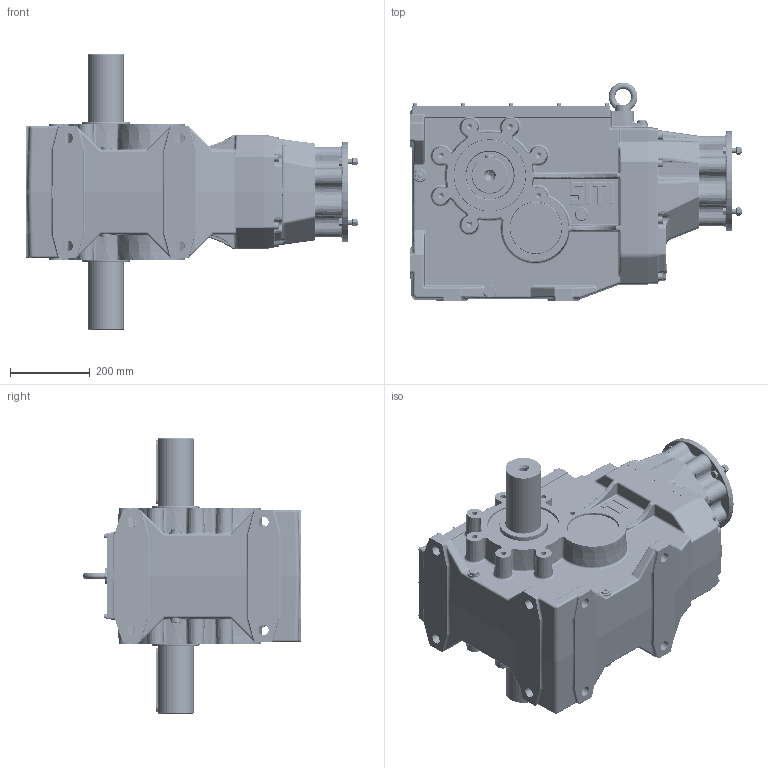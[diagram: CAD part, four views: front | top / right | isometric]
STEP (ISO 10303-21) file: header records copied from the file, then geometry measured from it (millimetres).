
FILE_DESCRIPTION((''),'2;1');
FILE_NAME('O:\Figurini\Figurini BH\3D\160\MBHGC 160 MD GR 100-112 B5.stp','2013-05-21T12:38:44',('d.iannaccio'),(''),'Autodesk Inventor 2012','Autodesk Inventor 2012','');
FILE_SCHEMA(('AUTOMOTIVE_DESIGN { 1 0 10303 214 1 1 1 1 }'));
Length unit declared in the file: millimetre
Products named in the file (1): MBHGC_160 MD GR 100-112 B5
Bounding box: 832 x 547.94 x 690 mm (x, y, z)
Volume: 29343689.8 mm3; surface area: 3566352.8 mm2
Topology: 64 solids, 66 shells, 4193 faces, 10080 edges, 6019 vertices
Faces by surface type: cylinder 1175, plane 1173, bspline 810, cone 486, torus 474, sphere 75
Full cylindrical faces by diameter (mm): 1.5 x1, 4.917 x12, 6 x24, 6.4 x12, 6.647 x1, 7 x12, 8 x1, 10 x12, 10.106 x8, 11 x2, 12 x46, 12.5 x14, 13 x16, 13.835 x14, 14 x4, 14.95 x8, 17.25 x2, 17.294 x3, 18 x16, 20 x2, 20.5 x16, 21 x2, 22 x1, 24 x1, 24.95 x1, 25 x2, 26 x9, 30 x5, 40 x1, 40.41 x1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
Entity records: 158451 total; most frequent: CARTESIAN_POINT 64041, DIRECTION 18446, ORIENTED_EDGE 18268, EDGE_CURVE 9134, AXIS2_PLACEMENT_3D 7772, VERTEX_POINT 5790, EDGE_LOOP 5057, STYLED_ITEM 4257
